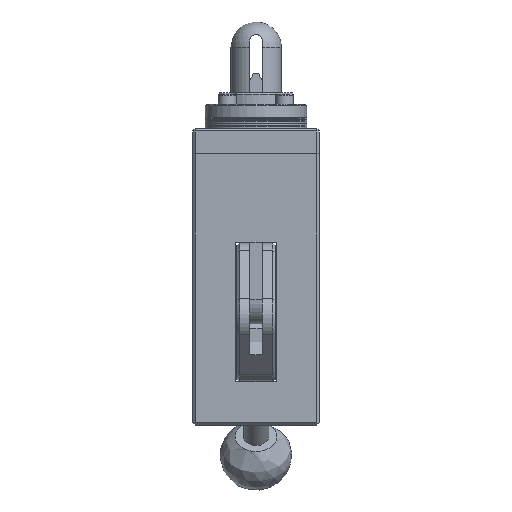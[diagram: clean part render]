
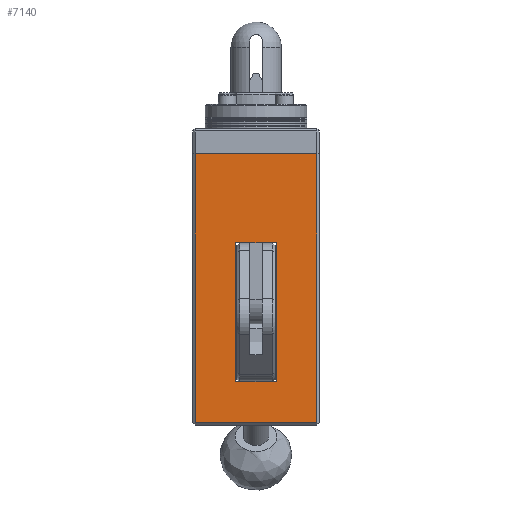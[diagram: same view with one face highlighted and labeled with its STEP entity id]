
A CAD part, left-side view. The second image highlights one B-rep face of the part: STEP entity #7140.
In plain terms, the highlighted planar face has unit normal (-1, 0, 0).
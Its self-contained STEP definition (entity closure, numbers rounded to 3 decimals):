
#244=FACE_BOUND('',#1162,.T.);
#445=PLANE('',#7874);
#720=FACE_OUTER_BOUND('',#1161,.T.);
#1161=EDGE_LOOP('',(#5417,#5418,#5419,#5420));
#1162=EDGE_LOOP('',(#5421,#5422,#5423,#5424));
#1564=LINE('',#10988,#2095);
#1571=LINE('',#11018,#2102);
#1597=LINE('',#11097,#2128);
#1600=LINE('',#11103,#2131);
#1642=LINE('',#11317,#2173);
#1650=LINE('',#11339,#2181);
#1662=LINE('',#11379,#2193);
#1663=LINE('',#11381,#2194);
#2095=VECTOR('',#8748,10.);
#2102=VECTOR('',#8777,10.);
#2128=VECTOR('',#8853,10.);
#2131=VECTOR('',#8858,10.);
#2173=VECTOR('',#9090,10.);
#2181=VECTOR('',#9112,10.);
#2193=VECTOR('',#9156,10.);
#2194=VECTOR('',#9159,10.);
#3099=VERTEX_POINT('',#10985);
#3100=VERTEX_POINT('',#10987);
#3111=VERTEX_POINT('',#11015);
#3112=VERTEX_POINT('',#11017);
#3140=VERTEX_POINT('',#11095);
#3142=VERTEX_POINT('',#11101);
#3219=VERTEX_POINT('',#11316);
#3226=VERTEX_POINT('',#11338);
#3874=EDGE_CURVE('',#3100,#3099,#1564,.T.);
#3888=EDGE_CURVE('',#3111,#3112,#1571,.T.);
#3925=EDGE_CURVE('',#3140,#3111,#1597,.T.);
#3928=EDGE_CURVE('',#3142,#3140,#1600,.T.);
#4031=EDGE_CURVE('',#3219,#3100,#1642,.T.);
#4041=EDGE_CURVE('',#3226,#3219,#1650,.T.);
#4059=EDGE_CURVE('',#3099,#3226,#1662,.T.);
#4060=EDGE_CURVE('',#3112,#3142,#1663,.T.);
#5417=ORIENTED_EDGE('',*,*,#3925,.F.);
#5418=ORIENTED_EDGE('',*,*,#3928,.F.);
#5419=ORIENTED_EDGE('',*,*,#4060,.F.);
#5420=ORIENTED_EDGE('',*,*,#3888,.F.);
#5421=ORIENTED_EDGE('',*,*,#4031,.T.);
#5422=ORIENTED_EDGE('',*,*,#3874,.T.);
#5423=ORIENTED_EDGE('',*,*,#4059,.T.);
#5424=ORIENTED_EDGE('',*,*,#4041,.T.);
#7140=ADVANCED_FACE('',(#720,#244),#445,.T.);
#7874=AXIS2_PLACEMENT_3D('',#11380,#9157,#9158);
#8748=DIRECTION('',(0.,0.,1.));
#8777=DIRECTION('',(0.,0.,1.));
#8853=DIRECTION('',(0.,1.,0.));
#8858=DIRECTION('',(0.,0.,-1.));
#9090=DIRECTION('',(0.,1.,0.));
#9112=DIRECTION('',(0.,0.,-1.));
#9156=DIRECTION('',(0.,-1.,0.));
#9157=DIRECTION('center_axis',(-1.,0.,0.));
#9158=DIRECTION('ref_axis',(0.,-1.,0.));
#9159=DIRECTION('',(0.,-1.,0.));
#10985=CARTESIAN_POINT('',(-36.509,7.434,18.5));
#10987=CARTESIAN_POINT('',(-36.509,7.434,-36.5));
#10988=CARTESIAN_POINT('',(-36.509,7.434,-45.));
#11015=CARTESIAN_POINT('',(-36.509,23.434,-52.5));
#11017=CARTESIAN_POINT('',(-36.509,23.434,53.5));
#11018=CARTESIAN_POINT('',(-36.509,23.434,-53.5));
#11095=CARTESIAN_POINT('',(-36.509,-24.566,-52.5));
#11097=CARTESIAN_POINT('',(-36.509,-6.816,-52.5));
#11101=CARTESIAN_POINT('',(-36.509,-24.566,53.5));
#11103=CARTESIAN_POINT('',(-36.509,-24.566,-53.5));
#11316=CARTESIAN_POINT('',(-36.509,-8.566,-36.5));
#11317=CARTESIAN_POINT('',(-36.509,-0.566,-36.5));
#11338=CARTESIAN_POINT('',(-36.509,-8.566,18.5));
#11339=CARTESIAN_POINT('',(-36.509,-8.566,-45.));
#11379=CARTESIAN_POINT('',(-36.509,-4.566,18.5));
#11380=CARTESIAN_POINT('Origin',(-36.509,-0.566,-53.5));
#11381=CARTESIAN_POINT('',(-36.509,-0.566,53.5));
